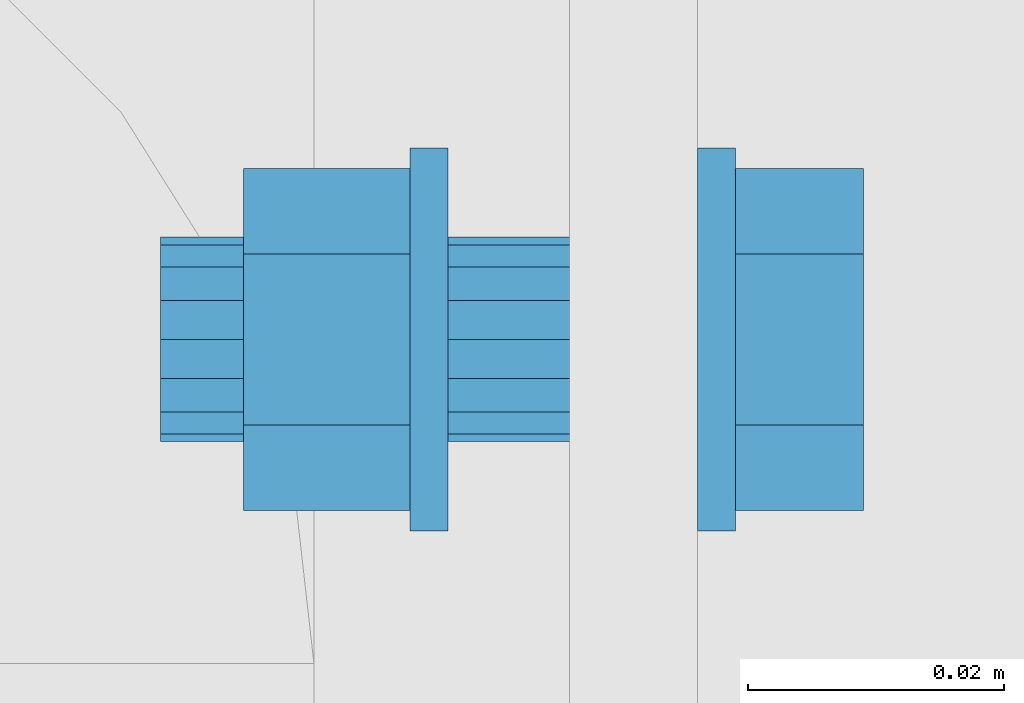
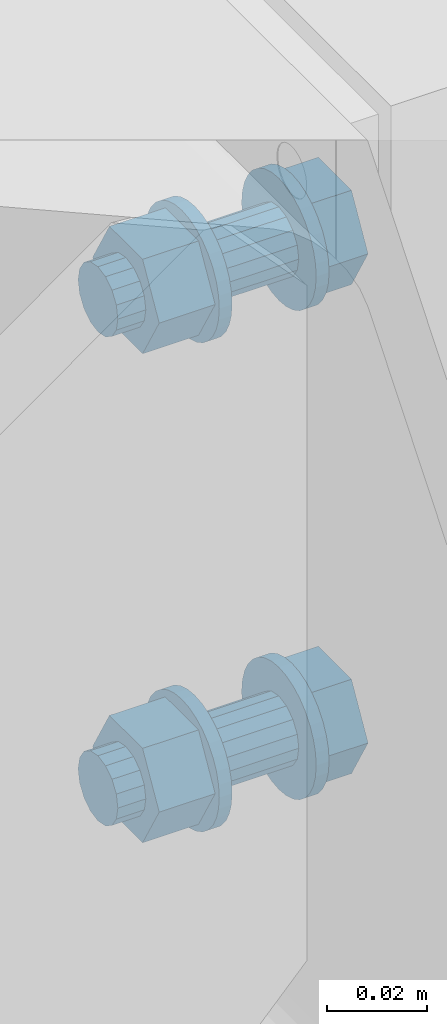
# One storey, part 282 of 825: 1 mechanical fastener.
"""IFC2X3 building model written with IfcOpenShell, lengths in millimetres."""

from ifc_helpers import new_model, entity, si_unit, converted_unit, origin_with_axes, place, context, project, spatial, faceted_brep, element, save


model = new_model("IFC2X3")

# Units and contexts
model_context = context("Model", 3, precision=1e-09, world=origin_with_axes())
ifc_project = project(units=[si_unit("LENGTHUNIT", "METRE", prefix="MILLI"), si_unit("AREAUNIT", "SQUARE_METRE"), si_unit("VOLUMEUNIT", "CUBIC_METRE"), converted_unit("PLANEANGLEUNIT", "DEGREE", entity("IfcPlaneAngleMeasure", 0.01745329), si_unit("PLANEANGLEUNIT", "RADIAN"), dimensions=[0, 0, 0, 0, 0, 0, 0])], contexts=[model_context])

# Site, building, storey
site_placement = place(None, origin_with_axes())
site = spatial("IfcSite", under=ifc_project, at=site_placement, Name="Cnopf'sche Kinderklinik", CompositionType="ELEMENT")
building_placement = place(site_placement, origin_with_axes())
building = spatial("IfcBuilding", under=site, at=building_placement, Name="Struktur 1", CompositionType="ELEMENT")
storey_placement = place(building_placement, origin_with_axes())
storey = spatial("IfcBuildingStorey", under=building, at=storey_placement, Name="Default Storey", CompositionType="ELEMENT", Elevation=0.0)

# Mechanical fastener
mechanical_fastener_placement = place(None, origin_with_axes())
element("IfcMechanicalFastener", 1, at=mechanical_fastener_placement, inside=storey, ObjectType="Bolt#2", NominalDiameter=16.0, NominalLength=45.0, context=model_context, shape_type="Brep", body=[
    faceted_brep([(3331.713402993, 5781.736971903, 9877.0), (3334.713402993, 5781.736971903, 9877.0), (3334.713402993, 5778.810617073, 9877.288220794), (3331.713402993, 5778.810617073, 9877.288220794), (3334.713402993, 5775.996720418, 9878.141807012), (3331.713402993, 5775.996720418, 9878.141807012), (3334.713402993, 5773.403418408, 9879.527955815), (3331.713402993, 5773.403418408, 9879.527955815), (3334.713402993, 5771.130370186, 9881.393398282), (3331.713402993, 5771.130370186, 9881.393398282), (3334.713402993, 5769.264927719, 9883.666446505), (3331.713402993, 5769.264927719, 9883.666446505), (3334.713402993, 5767.878778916, 9886.259748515), (3331.713402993, 5767.878778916, 9886.259748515), (3334.713402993, 5767.025192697, 9889.07364517), (3331.713402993, 5767.025192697, 9889.07364517), (3334.713402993, 5766.736971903, 9892.0), (3331.713402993, 5766.736971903, 9892.0), (3334.713402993, 5767.025192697, 9894.92635483), (3331.713402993, 5767.025192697, 9894.92635483), (3334.713402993, 5767.878778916, 9897.740251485), (3331.713402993, 5767.878778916, 9897.740251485), (3334.713402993, 5769.264927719, 9900.333553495), (3331.713402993, 5769.264927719, 9900.333553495), (3334.713402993, 5771.130370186, 9902.606601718), (3331.713402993, 5771.130370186, 9902.606601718), (3334.713402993, 5773.403418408, 9904.472044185), (3331.713402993, 5773.403418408, 9904.472044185), (3334.713402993, 5775.996720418, 9905.858192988), (3331.713402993, 5775.996720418, 9905.858192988), (3334.713402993, 5778.810617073, 9906.711779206), (3331.713402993, 5778.810617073, 9906.711779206), (3334.713402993, 5781.736971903, 9907.0), (3331.713402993, 5781.736971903, 9907.0), (3334.713402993, 5784.663326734, 9906.711779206), (3331.713402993, 5784.663326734, 9906.711779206), (3334.713402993, 5787.477223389, 9905.858192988), (3331.713402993, 5787.477223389, 9905.858192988), (3334.713402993, 5790.070525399, 9904.472044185), (3331.713402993, 5790.070525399, 9904.472044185), (3334.713402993, 5792.343573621, 9902.606601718), (3331.713402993, 5792.343573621, 9902.606601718), (3334.713402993, 5794.209016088, 9900.333553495), (3331.713402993, 5794.209016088, 9900.333553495), (3334.713402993, 5795.595164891, 9897.740251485), (3331.713402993, 5795.595164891, 9897.740251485), (3334.713402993, 5796.448751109, 9894.92635483), (3331.713402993, 5796.448751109, 9894.92635483), (3334.713402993, 5796.736971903, 9892.0), (3331.713402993, 5796.736971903, 9892.0), (3334.713402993, 5796.448751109, 9889.07364517), (3331.713402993, 5796.448751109, 9889.07364517), (3334.713402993, 5795.595164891, 9886.259748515), (3331.713402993, 5795.595164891, 9886.259748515), (3334.713402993, 5794.209016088, 9883.666446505), (3331.713402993, 5794.209016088, 9883.666446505), (3334.713402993, 5792.343573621, 9881.393398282), (3331.713402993, 5792.343573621, 9881.393398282), (3334.713402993, 5790.070525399, 9879.527955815), (3331.713402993, 5790.070525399, 9879.527955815), (3334.713402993, 5787.477223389, 9878.141807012), (3331.713402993, 5787.477223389, 9878.141807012), (3334.713402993, 5784.663326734, 9877.288220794), (3331.713402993, 5784.663326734, 9877.288220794)], [[[0, 1, 2, 3]], [[3, 2, 4, 5]], [[5, 4, 6, 7]], [[7, 6, 8, 9]], [[9, 8, 10, 11]], [[11, 10, 12, 13]], [[13, 12, 14, 15]], [[15, 14, 16, 17]], [[17, 16, 18, 19]], [[19, 18, 20, 21]], [[21, 20, 22, 23]], [[23, 22, 24, 25]], [[25, 24, 26, 27]], [[27, 26, 28, 29]], [[29, 28, 30, 31]], [[31, 30, 32, 33]], [[33, 32, 34, 35]], [[35, 34, 36, 37]], [[37, 36, 38, 39]], [[39, 38, 40, 41]], [[41, 40, 42, 43]], [[43, 42, 44, 45]], [[45, 44, 46, 47]], [[47, 46, 48, 49]], [[49, 48, 50, 51]], [[51, 50, 52, 53]], [[53, 52, 54, 55]], [[55, 54, 56, 57]], [[57, 56, 58, 59]], [[59, 58, 60, 61]], [[61, 60, 62, 63]], [[63, 62, 1, 0]], [[2, 1, 62, 60, 58, 56, 54, 52, 50, 48, 46, 44, 42, 40, 38, 36, 34, 32, 30, 28, 26, 24, 22, 20, 18, 16, 14, 12, 10, 8, 6, 4]], [[63, 0, 3, 5, 7, 9, 11, 13, 15, 17, 19, 21, 23, 25, 27, 29, 31, 33, 35, 37, 39, 41, 43, 45, 47, 49, 51, 53, 55, 57, 59, 61]]]),
    faceted_brep([(3331.713402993, 5781.736971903, 9757.0), (3334.713402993, 5781.736971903, 9757.0), (3334.713402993, 5778.810617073, 9757.288220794), (3331.713402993, 5778.810617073, 9757.288220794), (3334.713402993, 5775.996720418, 9758.141807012), (3331.713402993, 5775.996720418, 9758.141807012), (3334.713402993, 5773.403418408, 9759.527955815), (3331.713402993, 5773.403418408, 9759.527955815), (3334.713402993, 5771.130370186, 9761.393398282), (3331.713402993, 5771.130370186, 9761.393398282), (3334.713402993, 5769.264927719, 9763.666446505), (3331.713402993, 5769.264927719, 9763.666446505), (3334.713402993, 5767.878778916, 9766.259748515), (3331.713402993, 5767.878778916, 9766.259748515), (3334.713402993, 5767.025192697, 9769.07364517), (3331.713402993, 5767.025192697, 9769.07364517), (3334.713402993, 5766.736971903, 9772.0), (3331.713402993, 5766.736971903, 9772.0), (3334.713402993, 5767.025192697, 9774.92635483), (3331.713402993, 5767.025192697, 9774.92635483), (3334.713402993, 5767.878778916, 9777.740251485), (3331.713402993, 5767.878778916, 9777.740251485), (3334.713402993, 5769.264927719, 9780.333553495), (3331.713402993, 5769.264927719, 9780.333553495), (3334.713402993, 5771.130370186, 9782.606601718), (3331.713402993, 5771.130370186, 9782.606601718), (3334.713402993, 5773.403418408, 9784.472044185), (3331.713402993, 5773.403418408, 9784.472044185), (3334.713402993, 5775.996720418, 9785.858192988), (3331.713402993, 5775.996720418, 9785.858192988), (3334.713402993, 5778.810617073, 9786.711779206), (3331.713402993, 5778.810617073, 9786.711779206), (3334.713402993, 5781.736971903, 9787.0), (3331.713402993, 5781.736971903, 9787.0), (3334.713402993, 5784.663326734, 9786.711779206), (3331.713402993, 5784.663326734, 9786.711779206), (3334.713402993, 5787.477223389, 9785.858192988), (3331.713402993, 5787.477223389, 9785.858192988), (3334.713402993, 5790.070525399, 9784.472044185), (3331.713402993, 5790.070525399, 9784.472044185), (3334.713402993, 5792.343573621, 9782.606601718), (3331.713402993, 5792.343573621, 9782.606601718), (3334.713402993, 5794.209016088, 9780.333553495), (3331.713402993, 5794.209016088, 9780.333553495), (3334.713402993, 5795.595164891, 9777.740251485), (3331.713402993, 5795.595164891, 9777.740251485), (3334.713402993, 5796.448751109, 9774.92635483), (3331.713402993, 5796.448751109, 9774.92635483), (3334.713402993, 5796.736971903, 9772.0), (3331.713402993, 5796.736971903, 9772.0), (3334.713402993, 5796.448751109, 9769.07364517), (3331.713402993, 5796.448751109, 9769.07364517), (3334.713402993, 5795.595164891, 9766.259748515), (3331.713402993, 5795.595164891, 9766.259748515), (3334.713402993, 5794.209016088, 9763.666446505), (3331.713402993, 5794.209016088, 9763.666446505), (3334.713402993, 5792.343573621, 9761.393398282), (3331.713402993, 5792.343573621, 9761.393398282), (3334.713402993, 5790.070525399, 9759.527955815), (3331.713402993, 5790.070525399, 9759.527955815), (3334.713402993, 5787.477223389, 9758.141807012), (3331.713402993, 5787.477223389, 9758.141807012), (3334.713402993, 5784.663326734, 9757.288220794), (3331.713402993, 5784.663326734, 9757.288220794)], [[[0, 1, 2, 3]], [[3, 2, 4, 5]], [[5, 4, 6, 7]], [[7, 6, 8, 9]], [[9, 8, 10, 11]], [[11, 10, 12, 13]], [[13, 12, 14, 15]], [[15, 14, 16, 17]], [[17, 16, 18, 19]], [[19, 18, 20, 21]], [[21, 20, 22, 23]], [[23, 22, 24, 25]], [[25, 24, 26, 27]], [[27, 26, 28, 29]], [[29, 28, 30, 31]], [[31, 30, 32, 33]], [[33, 32, 34, 35]], [[35, 34, 36, 37]], [[37, 36, 38, 39]], [[39, 38, 40, 41]], [[41, 40, 42, 43]], [[43, 42, 44, 45]], [[45, 44, 46, 47]], [[47, 46, 48, 49]], [[49, 48, 50, 51]], [[51, 50, 52, 53]], [[53, 52, 54, 55]], [[55, 54, 56, 57]], [[57, 56, 58, 59]], [[59, 58, 60, 61]], [[61, 60, 62, 63]], [[63, 62, 1, 0]], [[2, 1, 62, 60, 58, 56, 54, 52, 50, 48, 46, 44, 42, 40, 38, 36, 34, 32, 30, 28, 26, 24, 22, 20, 18, 16, 14, 12, 10, 8, 6, 4]], [[63, 0, 3, 5, 7, 9, 11, 13, 15, 17, 19, 21, 23, 25, 27, 29, 31, 33, 35, 37, 39, 41, 43, 45, 47, 49, 51, 53, 55, 57, 59, 61]]]),
    faceted_brep([(3344.713402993, 5775.049471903, 9903.583089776), (3334.713402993, 5775.049471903, 9903.583089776), (3334.713402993, 5768.361971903, 9892.0), (3344.713402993, 5768.361971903, 9892.0), (3334.713402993, 5775.049471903, 9880.416910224), (3344.713402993, 5775.049471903, 9880.416910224), (3334.713402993, 5788.424471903, 9880.416910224), (3344.713402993, 5788.424471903, 9880.416910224), (3334.713402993, 5795.111971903, 9892.0), (3344.713402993, 5795.111971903, 9892.0), (3334.713402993, 5788.424471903, 9903.583089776), (3344.713402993, 5788.424471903, 9903.583089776)], [[[0, 1, 2, 3]], [[3, 2, 4, 5]], [[5, 4, 6, 7]], [[7, 6, 8, 9]], [[9, 8, 10, 11]], [[11, 10, 1, 0]], [[3, 5, 7, 9, 11, 0]], [[2, 1, 10, 8, 6, 4]]]),
    faceted_brep([(3344.713402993, 5775.049471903, 9783.583089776), (3334.713402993, 5775.049471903, 9783.583089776), (3334.713402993, 5768.361971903, 9772.0), (3344.713402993, 5768.361971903, 9772.0), (3334.713402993, 5775.049471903, 9760.416910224), (3344.713402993, 5775.049471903, 9760.416910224), (3334.713402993, 5788.424471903, 9760.416910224), (3344.713402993, 5788.424471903, 9760.416910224), (3334.713402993, 5795.111971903, 9772.0), (3344.713402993, 5795.111971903, 9772.0), (3334.713402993, 5788.424471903, 9783.583089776), (3344.713402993, 5788.424471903, 9783.583089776)], [[[0, 1, 2, 3]], [[3, 2, 4, 5]], [[5, 4, 6, 7]], [[7, 6, 8, 9]], [[9, 8, 10, 11]], [[11, 10, 1, 0]], [[3, 5, 7, 9, 11, 0]], [[2, 1, 10, 8, 6, 4]]]),
    faceted_brep([(3312.213402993, 5781.736971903, 9884.0), (3331.713402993, 5781.736971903, 9884.0), (3331.713402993, 5778.675504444, 9884.60896374), (3312.213402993, 5778.675504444, 9884.60896374), (3331.713402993, 5776.080117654, 9886.343145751), (3312.213402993, 5776.080117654, 9886.343145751), (3331.713402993, 5774.345935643, 9888.938532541), (3312.213402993, 5774.345935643, 9888.938532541), (3331.713402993, 5773.736971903, 9892.0), (3312.213402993, 5773.736971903, 9892.0), (3331.713402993, 5774.345935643, 9895.061467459), (3312.213402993, 5774.345935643, 9895.061467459), (3331.713402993, 5776.080117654, 9897.656854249), (3312.213402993, 5776.080117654, 9897.656854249), (3331.713402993, 5778.675504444, 9899.39103626), (3312.213402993, 5778.675504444, 9899.39103626), (3331.713402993, 5781.736971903, 9900.0), (3312.213402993, 5781.736971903, 9900.0), (3331.713402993, 5784.798439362, 9899.39103626), (3312.213402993, 5784.798439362, 9899.39103626), (3331.713402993, 5787.393826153, 9897.656854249), (3312.213402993, 5787.393826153, 9897.656854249), (3331.713402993, 5789.128008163, 9895.061467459), (3312.213402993, 5789.128008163, 9895.061467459), (3331.713402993, 5789.736971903, 9892.0), (3312.213402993, 5789.736971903, 9892.0), (3331.713402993, 5789.128008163, 9888.938532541), (3312.213402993, 5789.128008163, 9888.938532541), (3331.713402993, 5787.393826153, 9886.343145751), (3312.213402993, 5787.393826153, 9886.343145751), (3331.713402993, 5784.798439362, 9884.60896374), (3312.213402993, 5784.798439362, 9884.60896374)], [[[0, 1, 2, 3]], [[3, 2, 4, 5]], [[5, 4, 6, 7]], [[7, 6, 8, 9]], [[9, 8, 10, 11]], [[11, 10, 12, 13]], [[13, 12, 14, 15]], [[15, 14, 16, 17]], [[17, 16, 18, 19]], [[19, 18, 20, 21]], [[21, 20, 22, 23]], [[23, 22, 24, 25]], [[25, 24, 26, 27]], [[27, 26, 28, 29]], [[29, 28, 30, 31]], [[31, 30, 1, 0]], [[2, 1, 30, 28, 26, 24, 22, 20, 18, 16, 14, 12, 10, 8, 6, 4]], [[31, 0, 3, 5, 7, 9, 11, 13, 15, 17, 19, 21, 23, 25, 27, 29]]]),
    faceted_brep([(3312.213402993, 5781.736971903, 9764.0), (3331.713402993, 5781.736971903, 9764.0), (3331.713402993, 5778.675504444, 9764.60896374), (3312.213402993, 5778.675504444, 9764.60896374), (3331.713402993, 5776.080117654, 9766.343145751), (3312.213402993, 5776.080117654, 9766.343145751), (3331.713402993, 5774.345935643, 9768.938532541), (3312.213402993, 5774.345935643, 9768.938532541), (3331.713402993, 5773.736971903, 9772.0), (3312.213402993, 5773.736971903, 9772.0), (3331.713402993, 5774.345935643, 9775.061467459), (3312.213402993, 5774.345935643, 9775.061467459), (3331.713402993, 5776.080117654, 9777.656854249), (3312.213402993, 5776.080117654, 9777.656854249), (3331.713402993, 5778.675504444, 9779.39103626), (3312.213402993, 5778.675504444, 9779.39103626), (3331.713402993, 5781.736971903, 9780.0), (3312.213402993, 5781.736971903, 9780.0), (3331.713402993, 5784.798439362, 9779.39103626), (3312.213402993, 5784.798439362, 9779.39103626), (3331.713402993, 5787.393826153, 9777.656854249), (3312.213402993, 5787.393826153, 9777.656854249), (3331.713402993, 5789.128008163, 9775.061467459), (3312.213402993, 5789.128008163, 9775.061467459), (3331.713402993, 5789.736971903, 9772.0), (3312.213402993, 5789.736971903, 9772.0), (3331.713402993, 5789.128008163, 9768.938532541), (3312.213402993, 5789.128008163, 9768.938532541), (3331.713402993, 5787.393826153, 9766.343145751), (3312.213402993, 5787.393826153, 9766.343145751), (3331.713402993, 5784.798439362, 9764.60896374), (3312.213402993, 5784.798439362, 9764.60896374)], [[[0, 1, 2, 3]], [[3, 2, 4, 5]], [[5, 4, 6, 7]], [[7, 6, 8, 9]], [[9, 8, 10, 11]], [[11, 10, 12, 13]], [[13, 12, 14, 15]], [[15, 14, 16, 17]], [[17, 16, 18, 19]], [[19, 18, 20, 21]], [[21, 20, 22, 23]], [[23, 22, 24, 25]], [[25, 24, 26, 27]], [[27, 26, 28, 29]], [[29, 28, 30, 31]], [[31, 30, 1, 0]], [[2, 1, 30, 28, 26, 24, 22, 20, 18, 16, 14, 12, 10, 8, 6, 4]], [[31, 0, 3, 5, 7, 9, 11, 13, 15, 17, 19, 21, 23, 25, 27, 29]]]),
    faceted_brep([(3309.213402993, 5781.736971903, 9877.0), (3312.213402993, 5781.736971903, 9877.0), (3312.213402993, 5778.810617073, 9877.288220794), (3309.213402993, 5778.810617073, 9877.288220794), (3312.213402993, 5775.996720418, 9878.141807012), (3309.213402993, 5775.996720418, 9878.141807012), (3312.213402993, 5773.403418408, 9879.527955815), (3309.213402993, 5773.403418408, 9879.527955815), (3312.213402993, 5771.130370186, 9881.393398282), (3309.213402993, 5771.130370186, 9881.393398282), (3312.213402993, 5769.264927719, 9883.666446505), (3309.213402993, 5769.264927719, 9883.666446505), (3312.213402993, 5767.878778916, 9886.259748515), (3309.213402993, 5767.878778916, 9886.259748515), (3312.213402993, 5767.025192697, 9889.07364517), (3309.213402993, 5767.025192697, 9889.07364517), (3312.213402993, 5766.736971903, 9892.0), (3309.213402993, 5766.736971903, 9892.0), (3312.213402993, 5767.025192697, 9894.92635483), (3309.213402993, 5767.025192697, 9894.92635483), (3312.213402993, 5767.878778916, 9897.740251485), (3309.213402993, 5767.878778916, 9897.740251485), (3312.213402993, 5769.264927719, 9900.333553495), (3309.213402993, 5769.264927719, 9900.333553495), (3312.213402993, 5771.130370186, 9902.606601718), (3309.213402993, 5771.130370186, 9902.606601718), (3312.213402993, 5773.403418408, 9904.472044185), (3309.213402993, 5773.403418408, 9904.472044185), (3312.213402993, 5775.996720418, 9905.858192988), (3309.213402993, 5775.996720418, 9905.858192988), (3312.213402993, 5778.810617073, 9906.711779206), (3309.213402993, 5778.810617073, 9906.711779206), (3312.213402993, 5781.736971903, 9907.0), (3309.213402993, 5781.736971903, 9907.0), (3312.213402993, 5784.663326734, 9906.711779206), (3309.213402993, 5784.663326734, 9906.711779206), (3312.213402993, 5787.477223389, 9905.858192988), (3309.213402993, 5787.477223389, 9905.858192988), (3312.213402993, 5790.070525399, 9904.472044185), (3309.213402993, 5790.070525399, 9904.472044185), (3312.213402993, 5792.343573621, 9902.606601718), (3309.213402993, 5792.343573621, 9902.606601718), (3312.213402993, 5794.209016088, 9900.333553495), (3309.213402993, 5794.209016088, 9900.333553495), (3312.213402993, 5795.595164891, 9897.740251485), (3309.213402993, 5795.595164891, 9897.740251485), (3312.213402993, 5796.448751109, 9894.92635483), (3309.213402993, 5796.448751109, 9894.92635483), (3312.213402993, 5796.736971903, 9892.0), (3309.213402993, 5796.736971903, 9892.0), (3312.213402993, 5796.448751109, 9889.07364517), (3309.213402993, 5796.448751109, 9889.07364517), (3312.213402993, 5795.595164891, 9886.259748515), (3309.213402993, 5795.595164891, 9886.259748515), (3312.213402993, 5794.209016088, 9883.666446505), (3309.213402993, 5794.209016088, 9883.666446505), (3312.213402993, 5792.343573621, 9881.393398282), (3309.213402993, 5792.343573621, 9881.393398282), (3312.213402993, 5790.070525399, 9879.527955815), (3309.213402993, 5790.070525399, 9879.527955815), (3312.213402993, 5787.477223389, 9878.141807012), (3309.213402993, 5787.477223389, 9878.141807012), (3312.213402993, 5784.663326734, 9877.288220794), (3309.213402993, 5784.663326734, 9877.288220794)], [[[0, 1, 2, 3]], [[3, 2, 4, 5]], [[5, 4, 6, 7]], [[7, 6, 8, 9]], [[9, 8, 10, 11]], [[11, 10, 12, 13]], [[13, 12, 14, 15]], [[15, 14, 16, 17]], [[17, 16, 18, 19]], [[19, 18, 20, 21]], [[21, 20, 22, 23]], [[23, 22, 24, 25]], [[25, 24, 26, 27]], [[27, 26, 28, 29]], [[29, 28, 30, 31]], [[31, 30, 32, 33]], [[33, 32, 34, 35]], [[35, 34, 36, 37]], [[37, 36, 38, 39]], [[39, 38, 40, 41]], [[41, 40, 42, 43]], [[43, 42, 44, 45]], [[45, 44, 46, 47]], [[47, 46, 48, 49]], [[49, 48, 50, 51]], [[51, 50, 52, 53]], [[53, 52, 54, 55]], [[55, 54, 56, 57]], [[57, 56, 58, 59]], [[59, 58, 60, 61]], [[61, 60, 62, 63]], [[63, 62, 1, 0]], [[2, 1, 62, 60, 58, 56, 54, 52, 50, 48, 46, 44, 42, 40, 38, 36, 34, 32, 30, 28, 26, 24, 22, 20, 18, 16, 14, 12, 10, 8, 6, 4]], [[63, 0, 3, 5, 7, 9, 11, 13, 15, 17, 19, 21, 23, 25, 27, 29, 31, 33, 35, 37, 39, 41, 43, 45, 47, 49, 51, 53, 55, 57, 59, 61]]]),
    faceted_brep([(3309.213402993, 5781.736971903, 9757.0), (3312.213402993, 5781.736971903, 9757.0), (3312.213402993, 5778.810617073, 9757.288220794), (3309.213402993, 5778.810617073, 9757.288220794), (3312.213402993, 5775.996720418, 9758.141807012), (3309.213402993, 5775.996720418, 9758.141807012), (3312.213402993, 5773.403418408, 9759.527955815), (3309.213402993, 5773.403418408, 9759.527955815), (3312.213402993, 5771.130370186, 9761.393398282), (3309.213402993, 5771.130370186, 9761.393398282), (3312.213402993, 5769.264927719, 9763.666446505), (3309.213402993, 5769.264927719, 9763.666446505), (3312.213402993, 5767.878778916, 9766.259748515), (3309.213402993, 5767.878778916, 9766.259748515), (3312.213402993, 5767.025192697, 9769.07364517), (3309.213402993, 5767.025192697, 9769.07364517), (3312.213402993, 5766.736971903, 9772.0), (3309.213402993, 5766.736971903, 9772.0), (3312.213402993, 5767.025192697, 9774.92635483), (3309.213402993, 5767.025192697, 9774.92635483), (3312.213402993, 5767.878778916, 9777.740251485), (3309.213402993, 5767.878778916, 9777.740251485), (3312.213402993, 5769.264927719, 9780.333553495), (3309.213402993, 5769.264927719, 9780.333553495), (3312.213402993, 5771.130370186, 9782.606601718), (3309.213402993, 5771.130370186, 9782.606601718), (3312.213402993, 5773.403418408, 9784.472044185), (3309.213402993, 5773.403418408, 9784.472044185), (3312.213402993, 5775.996720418, 9785.858192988), (3309.213402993, 5775.996720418, 9785.858192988), (3312.213402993, 5778.810617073, 9786.711779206), (3309.213402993, 5778.810617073, 9786.711779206), (3312.213402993, 5781.736971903, 9787.0), (3309.213402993, 5781.736971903, 9787.0), (3312.213402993, 5784.663326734, 9786.711779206), (3309.213402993, 5784.663326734, 9786.711779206), (3312.213402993, 5787.477223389, 9785.858192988), (3309.213402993, 5787.477223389, 9785.858192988), (3312.213402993, 5790.070525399, 9784.472044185), (3309.213402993, 5790.070525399, 9784.472044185), (3312.213402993, 5792.343573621, 9782.606601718), (3309.213402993, 5792.343573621, 9782.606601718), (3312.213402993, 5794.209016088, 9780.333553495), (3309.213402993, 5794.209016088, 9780.333553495), (3312.213402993, 5795.595164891, 9777.740251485), (3309.213402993, 5795.595164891, 9777.740251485), (3312.213402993, 5796.448751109, 9774.92635483), (3309.213402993, 5796.448751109, 9774.92635483), (3312.213402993, 5796.736971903, 9772.0), (3309.213402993, 5796.736971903, 9772.0), (3312.213402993, 5796.448751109, 9769.07364517), (3309.213402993, 5796.448751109, 9769.07364517), (3312.213402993, 5795.595164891, 9766.259748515), (3309.213402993, 5795.595164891, 9766.259748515), (3312.213402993, 5794.209016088, 9763.666446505), (3309.213402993, 5794.209016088, 9763.666446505), (3312.213402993, 5792.343573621, 9761.393398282), (3309.213402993, 5792.343573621, 9761.393398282), (3312.213402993, 5790.070525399, 9759.527955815), (3309.213402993, 5790.070525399, 9759.527955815), (3312.213402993, 5787.477223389, 9758.141807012), (3309.213402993, 5787.477223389, 9758.141807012), (3312.213402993, 5784.663326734, 9757.288220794), (3309.213402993, 5784.663326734, 9757.288220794)], [[[0, 1, 2, 3]], [[3, 2, 4, 5]], [[5, 4, 6, 7]], [[7, 6, 8, 9]], [[9, 8, 10, 11]], [[11, 10, 12, 13]], [[13, 12, 14, 15]], [[15, 14, 16, 17]], [[17, 16, 18, 19]], [[19, 18, 20, 21]], [[21, 20, 22, 23]], [[23, 22, 24, 25]], [[25, 24, 26, 27]], [[27, 26, 28, 29]], [[29, 28, 30, 31]], [[31, 30, 32, 33]], [[33, 32, 34, 35]], [[35, 34, 36, 37]], [[37, 36, 38, 39]], [[39, 38, 40, 41]], [[41, 40, 42, 43]], [[43, 42, 44, 45]], [[45, 44, 46, 47]], [[47, 46, 48, 49]], [[49, 48, 50, 51]], [[51, 50, 52, 53]], [[53, 52, 54, 55]], [[55, 54, 56, 57]], [[57, 56, 58, 59]], [[59, 58, 60, 61]], [[61, 60, 62, 63]], [[63, 62, 1, 0]], [[2, 1, 62, 60, 58, 56, 54, 52, 50, 48, 46, 44, 42, 40, 38, 36, 34, 32, 30, 28, 26, 24, 22, 20, 18, 16, 14, 12, 10, 8, 6, 4]], [[63, 0, 3, 5, 7, 9, 11, 13, 15, 17, 19, 21, 23, 25, 27, 29, 31, 33, 35, 37, 39, 41, 43, 45, 47, 49, 51, 53, 55, 57, 59, 61]]]),
    faceted_brep([(3309.213402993, 5775.049471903, 9903.583089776), (3296.213402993, 5775.049471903, 9903.583089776), (3296.213402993, 5768.361971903, 9892.0), (3309.213402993, 5768.361971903, 9892.0), (3296.213402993, 5775.049471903, 9880.416910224), (3309.213402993, 5775.049471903, 9880.416910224), (3296.213402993, 5788.424471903, 9880.416910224), (3309.213402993, 5788.424471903, 9880.416910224), (3296.213402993, 5795.111971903, 9892.0), (3309.213402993, 5795.111971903, 9892.0), (3296.213402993, 5788.424471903, 9903.583089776), (3309.213402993, 5788.424471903, 9903.583089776)], [[[0, 1, 2, 3]], [[3, 2, 4, 5]], [[5, 4, 6, 7]], [[7, 6, 8, 9]], [[9, 8, 10, 11]], [[11, 10, 1, 0]], [[3, 5, 7, 9, 11, 0]], [[2, 1, 10, 8, 6, 4]]]),
    faceted_brep([(3309.213402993, 5775.049471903, 9783.583089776), (3296.213402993, 5775.049471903, 9783.583089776), (3296.213402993, 5768.361971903, 9772.0), (3309.213402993, 5768.361971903, 9772.0), (3296.213402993, 5775.049471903, 9760.416910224), (3309.213402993, 5775.049471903, 9760.416910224), (3296.213402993, 5788.424471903, 9760.416910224), (3309.213402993, 5788.424471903, 9760.416910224), (3296.213402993, 5795.111971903, 9772.0), (3309.213402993, 5795.111971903, 9772.0), (3296.213402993, 5788.424471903, 9783.583089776), (3309.213402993, 5788.424471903, 9783.583089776)], [[[0, 1, 2, 3]], [[3, 2, 4, 5]], [[5, 4, 6, 7]], [[7, 6, 8, 9]], [[9, 8, 10, 11]], [[11, 10, 1, 0]], [[3, 5, 7, 9, 11, 0]], [[2, 1, 10, 8, 6, 4]]]),
    faceted_brep([(3289.713402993, 5781.736971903, 9884.0), (3296.213402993, 5781.736971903, 9884.0), (3296.213402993, 5778.675504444, 9884.60896374), (3289.713402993, 5778.675504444, 9884.60896374), (3296.213402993, 5776.080117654, 9886.343145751), (3289.713402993, 5776.080117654, 9886.343145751), (3296.213402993, 5774.345935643, 9888.938532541), (3289.713402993, 5774.345935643, 9888.938532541), (3296.213402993, 5773.736971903, 9892.0), (3289.713402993, 5773.736971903, 9892.0), (3296.213402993, 5774.345935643, 9895.061467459), (3289.713402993, 5774.345935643, 9895.061467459), (3296.213402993, 5776.080117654, 9897.656854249), (3289.713402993, 5776.080117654, 9897.656854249), (3296.213402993, 5778.675504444, 9899.39103626), (3289.713402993, 5778.675504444, 9899.39103626), (3296.213402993, 5781.736971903, 9900.0), (3289.713402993, 5781.736971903, 9900.0), (3296.213402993, 5784.798439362, 9899.39103626), (3289.713402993, 5784.798439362, 9899.39103626), (3296.213402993, 5787.393826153, 9897.656854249), (3289.713402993, 5787.393826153, 9897.656854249), (3296.213402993, 5789.128008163, 9895.061467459), (3289.713402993, 5789.128008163, 9895.061467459), (3296.213402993, 5789.736971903, 9892.0), (3289.713402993, 5789.736971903, 9892.0), (3296.213402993, 5789.128008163, 9888.938532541), (3289.713402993, 5789.128008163, 9888.938532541), (3296.213402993, 5787.393826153, 9886.343145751), (3289.713402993, 5787.393826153, 9886.343145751), (3296.213402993, 5784.798439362, 9884.60896374), (3289.713402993, 5784.798439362, 9884.60896374)], [[[0, 1, 2, 3]], [[3, 2, 4, 5]], [[5, 4, 6, 7]], [[7, 6, 8, 9]], [[9, 8, 10, 11]], [[11, 10, 12, 13]], [[13, 12, 14, 15]], [[15, 14, 16, 17]], [[17, 16, 18, 19]], [[19, 18, 20, 21]], [[21, 20, 22, 23]], [[23, 22, 24, 25]], [[25, 24, 26, 27]], [[27, 26, 28, 29]], [[29, 28, 30, 31]], [[31, 30, 1, 0]], [[2, 1, 30, 28, 26, 24, 22, 20, 18, 16, 14, 12, 10, 8, 6, 4]], [[31, 0, 3, 5, 7, 9, 11, 13, 15, 17, 19, 21, 23, 25, 27, 29]]]),
    faceted_brep([(3289.713402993, 5781.736971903, 9764.0), (3296.213402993, 5781.736971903, 9764.0), (3296.213402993, 5778.675504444, 9764.60896374), (3289.713402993, 5778.675504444, 9764.60896374), (3296.213402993, 5776.080117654, 9766.343145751), (3289.713402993, 5776.080117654, 9766.343145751), (3296.213402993, 5774.345935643, 9768.938532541), (3289.713402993, 5774.345935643, 9768.938532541), (3296.213402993, 5773.736971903, 9772.0), (3289.713402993, 5773.736971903, 9772.0), (3296.213402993, 5774.345935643, 9775.061467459), (3289.713402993, 5774.345935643, 9775.061467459), (3296.213402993, 5776.080117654, 9777.656854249), (3289.713402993, 5776.080117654, 9777.656854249), (3296.213402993, 5778.675504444, 9779.39103626), (3289.713402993, 5778.675504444, 9779.39103626), (3296.213402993, 5781.736971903, 9780.0), (3289.713402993, 5781.736971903, 9780.0), (3296.213402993, 5784.798439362, 9779.39103626), (3289.713402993, 5784.798439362, 9779.39103626), (3296.213402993, 5787.393826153, 9777.656854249), (3289.713402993, 5787.393826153, 9777.656854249), (3296.213402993, 5789.128008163, 9775.061467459), (3289.713402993, 5789.128008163, 9775.061467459), (3296.213402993, 5789.736971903, 9772.0), (3289.713402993, 5789.736971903, 9772.0), (3296.213402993, 5789.128008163, 9768.938532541), (3289.713402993, 5789.128008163, 9768.938532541), (3296.213402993, 5787.393826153, 9766.343145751), (3289.713402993, 5787.393826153, 9766.343145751), (3296.213402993, 5784.798439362, 9764.60896374), (3289.713402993, 5784.798439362, 9764.60896374)], [[[0, 1, 2, 3]], [[3, 2, 4, 5]], [[5, 4, 6, 7]], [[7, 6, 8, 9]], [[9, 8, 10, 11]], [[11, 10, 12, 13]], [[13, 12, 14, 15]], [[15, 14, 16, 17]], [[17, 16, 18, 19]], [[19, 18, 20, 21]], [[21, 20, 22, 23]], [[23, 22, 24, 25]], [[25, 24, 26, 27]], [[27, 26, 28, 29]], [[29, 28, 30, 31]], [[31, 30, 1, 0]], [[2, 1, 30, 28, 26, 24, 22, 20, 18, 16, 14, 12, 10, 8, 6, 4]], [[31, 0, 3, 5, 7, 9, 11, 13, 15, 17, 19, 21, 23, 25, 27, 29]]]),
])

save(model, "model.ifc")
